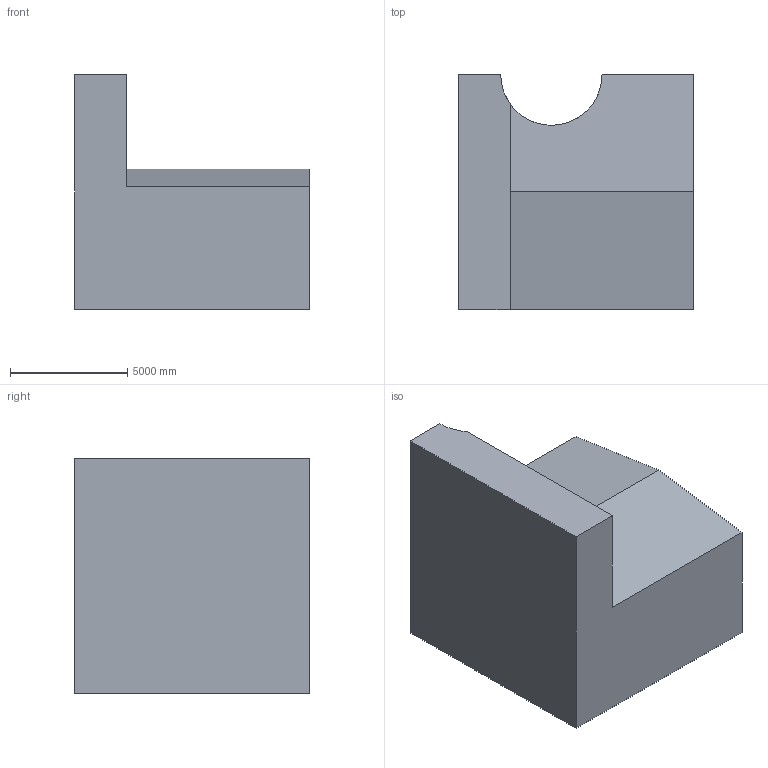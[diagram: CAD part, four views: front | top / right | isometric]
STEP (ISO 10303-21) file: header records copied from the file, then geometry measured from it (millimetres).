
FILE_DESCRIPTION (( 'STEP AP203' ), '1' );
FILE_NAME ('224.STEP', '2022-07-28T13:57:35', ( 'user' ), ( '' ), 'SwSTEP 2.0', 'SolidWorks 2021', '' );
FILE_SCHEMA (( 'CONFIG_CONTROL_DESIGN' ));
Length unit declared in the file: centimetre
Products named in the file (1): 224
Bounding box: 10000 x 10000 x 10000 mm (x, y, z)
Volume: 608782778438.7 mm3; surface area: 520284701.6 mm2
Topology: 1 solids, 1 shells, 13 faces, 33 edges, 22 vertices
Faces by surface type: plane 12, cylinder 1
Entity records: 466 total; most frequent: CARTESIAN_POINT 72, ORIENTED_EDGE 66, DIRECTION 62, EDGE_CURVE 33, VECTOR 30, LINE 30, VERTEX_POINT 22, AXIS2_PLACEMENT_3D 16
